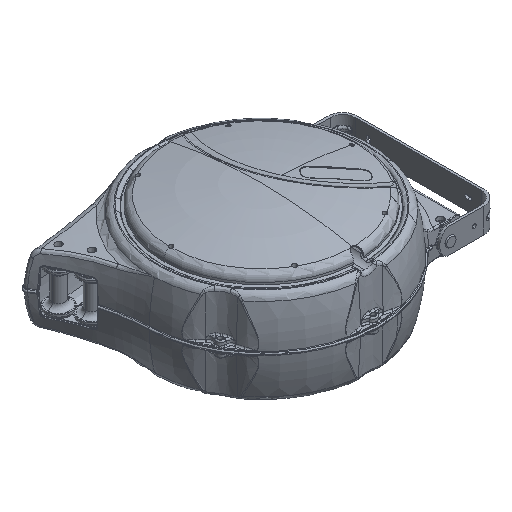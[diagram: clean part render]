
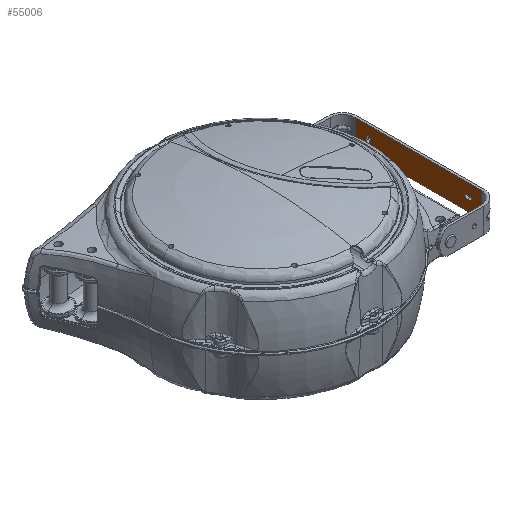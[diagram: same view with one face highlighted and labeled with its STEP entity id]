
A CAD part, isometric view. The second image highlights one B-rep face of the part: STEP entity #55006.
In plain terms, the highlighted planar face has unit normal (1, 0, 0).
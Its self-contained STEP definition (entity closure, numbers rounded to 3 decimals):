
#38 = DIRECTION ( 'NONE',  ( 0., 0., 1. ) ) ;
#1985 = CARTESIAN_POINT ( 'NONE',  ( 246.238, 77.252, 503.276 ) ) ;
#4362 = EDGE_CURVE ( 'NONE', #72459, #18312, #70038, .T. ) ;
#4999 = DIRECTION ( 'NONE',  ( 0., 0., -1. ) ) ;
#5543 = AXIS2_PLACEMENT_3D ( 'NONE', #58985, #20474, #65432 ) ;
#5764 = DIRECTION ( 'NONE',  ( 0., 0., 1. ) ) ;
#7148 = DIRECTION ( 'NONE',  ( 0., 0., -1. ) ) ;
#9619 = VECTOR ( 'NONE', #18778, 1000. ) ;
#9952 = FACE_BOUND ( 'NONE', #32067, .T. ) ;
#10030 = ORIENTED_EDGE ( 'NONE', *, *, #36230, .T. ) ;
#10706 = VERTEX_POINT ( 'NONE', #24342 ) ;
#11835 = CARTESIAN_POINT ( 'NONE',  ( 246.238, 71.052, 498.276 ) ) ;
#12774 = DIRECTION ( 'NONE',  ( 0., 1., 0. ) ) ;
#13536 = VERTEX_POINT ( 'NONE', #55274 ) ;
#14205 = CARTESIAN_POINT ( 'NONE',  ( 246.238, 77.252, 498.276 ) ) ;
#14918 = VECTOR ( 'NONE', #12774, 1000. ) ;
#15099 = CARTESIAN_POINT ( 'NONE',  ( 246.238, 74.152, 506.376 ) ) ;
#15129 = ORIENTED_EDGE ( 'NONE', *, *, #22444, .T. ) ;
#15210 = CARTESIAN_POINT ( 'NONE',  ( 246.238, -83.348, 503.876 ) ) ;
#18312 = VERTEX_POINT ( 'NONE', #14205 ) ;
#18778 = DIRECTION ( 'NONE',  ( 0., 0., 1. ) ) ;
#19207 = CIRCLE ( 'NONE', #23318, 3.1 ) ;
#20115 = VERTEX_POINT ( 'NONE', #15210 ) ;
#20387 = VERTEX_POINT ( 'NONE', #49767 ) ;
#20474 = DIRECTION ( 'NONE',  ( -1., 0., 0. ) ) ;
#20614 = LINE ( 'NONE', #50865, #9619 ) ;
#22053 = DIRECTION ( 'NONE',  ( -1., 0., 0. ) ) ;
#22444 = EDGE_CURVE ( 'NONE', #33396, #66973, #33160, .T. ) ;
#22503 = VECTOR ( 'NONE', #76336, 1000. ) ;
#23318 = AXIS2_PLACEMENT_3D ( 'NONE', #77007, #38533, #38 ) ;
#24054 = ORIENTED_EDGE ( 'NONE', *, *, #42538, .T. ) ;
#24342 = CARTESIAN_POINT ( 'NONE',  ( 246.238, -83.348, 497.676 ) ) ;
#25459 = ORIENTED_EDGE ( 'NONE', *, *, #4362, .T. ) ;
#26781 = VERTEX_POINT ( 'NONE', #77850 ) ;
#27006 = FACE_BOUND ( 'NONE', #63782, .T. ) ;
#27711 = CARTESIAN_POINT ( 'NONE',  ( 246.238, -106.348, 497.676 ) ) ;
#29485 = EDGE_CURVE ( 'NONE', #20115, #10706, #58205, .T. ) ;
#30465 = AXIS2_PLACEMENT_3D ( 'NONE', #60588, #22053, #67023 ) ;
#31183 = ORIENTED_EDGE ( 'NONE', *, *, #77694, .T. ) ;
#31208 = CIRCLE ( 'NONE', #30465, 3.1 ) ;
#31213 = PLANE ( 'NONE',  #75941 ) ;
#31410 = VECTOR ( 'NONE', #75679, 1000. ) ;
#32067 = EDGE_LOOP ( 'NONE', ( #51208, #46924, #24054, #69402 ) ) ;
#32482 = DIRECTION ( 'NONE',  ( -1., 0., 0. ) ) ;
#32749 = CARTESIAN_POINT ( 'NONE',  ( 246.238, 77.252, 520.776 ) ) ;
#33160 = LINE ( 'NONE', #57717, #82392 ) ;
#33396 = VERTEX_POINT ( 'NONE', #50943 ) ;
#33762 = VERTEX_POINT ( 'NONE', #15099 ) ;
#34053 = CIRCLE ( 'NONE', #48557, 3.1 ) ;
#34186 = DIRECTION ( 'NONE',  ( 0., -1., 0. ) ) ;
#36078 = CARTESIAN_POINT ( 'NONE',  ( 246.238, -88.348, 503.876 ) ) ;
#36230 = EDGE_CURVE ( 'NONE', #71054, #13536, #64963, .T. ) ;
#36724 = VERTEX_POINT ( 'NONE', #36078 ) ;
#37661 = DIRECTION ( 'NONE',  ( 0., 0., -1. ) ) ;
#38533 = DIRECTION ( 'NONE',  ( -1., 0., 0. ) ) ;
#38715 = EDGE_CURVE ( 'NONE', #70588, #20387, #20614, .T. ) ;
#39597 = LINE ( 'NONE', #69568, #22503 ) ;
#42071 = CARTESIAN_POINT ( 'NONE',  ( 246.238, 94.652, 520.776 ) ) ;
#42538 = EDGE_CURVE ( 'NONE', #36724, #20115, #39597, .T. ) ;
#42919 = EDGE_CURVE ( 'NONE', #33762, #72459, #50680, .T. ) ;
#44303 = DIRECTION ( 'NONE',  ( -1., 0., 0. ) ) ;
#44854 = CARTESIAN_POINT ( 'NONE',  ( 246.238, -106.348, 480.776 ) ) ;
#46504 = LINE ( 'NONE', #49868, #31410 ) ;
#46924 = ORIENTED_EDGE ( 'NONE', *, *, #55580, .T. ) ;
#47899 = VECTOR ( 'NONE', #34186, 1000. ) ;
#48557 = AXIS2_PLACEMENT_3D ( 'NONE', #82724, #44303, #5764 ) ;
#49056 = ORIENTED_EDGE ( 'NONE', *, *, #38715, .T. ) ;
#49767 = CARTESIAN_POINT ( 'NONE',  ( 246.238, 71.052, 503.276 ) ) ;
#49868 = CARTESIAN_POINT ( 'NONE',  ( 246.238, -106.348, 520.776 ) ) ;
#50680 = CIRCLE ( 'NONE', #80513, 3.1 ) ;
#50865 = CARTESIAN_POINT ( 'NONE',  ( 246.238, 71.052, 520.776 ) ) ;
#50943 = CARTESIAN_POINT ( 'NONE',  ( 246.238, 94.652, 480.776 ) ) ;
#51208 = ORIENTED_EDGE ( 'NONE', *, *, #66022, .T. ) ;
#51282 = DIRECTION ( 'NONE',  ( 0., 0., 1. ) ) ;
#53002 = VECTOR ( 'NONE', #7148, 1000. ) ;
#55006 = ADVANCED_FACE ( 'NONE', ( #27006, #9952, #80320 ), #31213, .T. ) ;
#55274 = CARTESIAN_POINT ( 'NONE',  ( 246.238, -106.348, 480.776 ) ) ;
#55580 = EDGE_CURVE ( 'NONE', #26781, #36724, #34053, .T. ) ;
#55678 = ORIENTED_EDGE ( 'NONE', *, *, #75116, .T. ) ;
#55692 = ORIENTED_EDGE ( 'NONE', *, *, #83334, .T. ) ;
#55700 = EDGE_CURVE ( 'NONE', #13536, #33396, #81267, .T. ) ;
#57717 = CARTESIAN_POINT ( 'NONE',  ( 246.238, 94.652, 520.776 ) ) ;
#58205 = CIRCLE ( 'NONE', #5543, 3.1 ) ;
#58985 = CARTESIAN_POINT ( 'NONE',  ( 246.238, -83.348, 500.776 ) ) ;
#60588 = CARTESIAN_POINT ( 'NONE',  ( 246.238, 74.152, 498.276 ) ) ;
#61669 = EDGE_LOOP ( 'NONE', ( #55678, #10030, #65107, #15129 ) ) ;
#63782 = EDGE_LOOP ( 'NONE', ( #49056, #31183, #69525, #25459, #55692 ) ) ;
#64963 = LINE ( 'NONE', #81962, #82036 ) ;
#65107 = ORIENTED_EDGE ( 'NONE', *, *, #55700, .T. ) ;
#65432 = DIRECTION ( 'NONE',  ( 0., 0., 1. ) ) ;
#66022 = EDGE_CURVE ( 'NONE', #10706, #26781, #80019, .T. ) ;
#66973 = VERTEX_POINT ( 'NONE', #42071 ) ;
#67023 = DIRECTION ( 'NONE',  ( 0., 0., 1. ) ) ;
#69110 = CARTESIAN_POINT ( 'NONE',  ( 246.238, -106.348, 520.776 ) ) ;
#69402 = ORIENTED_EDGE ( 'NONE', *, *, #29485, .T. ) ;
#69525 = ORIENTED_EDGE ( 'NONE', *, *, #42919, .T. ) ;
#69568 = CARTESIAN_POINT ( 'NONE',  ( 246.238, -106.348, 503.876 ) ) ;
#70038 = LINE ( 'NONE', #32749, #53002 ) ;
#70588 = VERTEX_POINT ( 'NONE', #11835 ) ;
#70935 = CARTESIAN_POINT ( 'NONE',  ( 246.238, 74.152, 503.276 ) ) ;
#71054 = VERTEX_POINT ( 'NONE', #72487 ) ;
#72459 = VERTEX_POINT ( 'NONE', #1985 ) ;
#72487 = CARTESIAN_POINT ( 'NONE',  ( 246.238, -106.348, 520.776 ) ) ;
#75116 = EDGE_CURVE ( 'NONE', #66973, #71054, #46504, .T. ) ;
#75679 = DIRECTION ( 'NONE',  ( 0., -1., 0. ) ) ;
#75941 = AXIS2_PLACEMENT_3D ( 'NONE', #69110, #76150, #37661 ) ;
#76150 = DIRECTION ( 'NONE',  ( 1., 0., 0. ) ) ;
#76336 = DIRECTION ( 'NONE',  ( 0., 1., 0. ) ) ;
#77007 = CARTESIAN_POINT ( 'NONE',  ( 246.238, 74.152, 503.276 ) ) ;
#77409 = DIRECTION ( 'NONE',  ( 0., 0., 1. ) ) ;
#77694 = EDGE_CURVE ( 'NONE', #20387, #33762, #19207, .T. ) ;
#77850 = CARTESIAN_POINT ( 'NONE',  ( 246.238, -88.348, 497.676 ) ) ;
#80019 = LINE ( 'NONE', #27711, #47899 ) ;
#80320 = FACE_OUTER_BOUND ( 'NONE', #61669, .T. ) ;
#80513 = AXIS2_PLACEMENT_3D ( 'NONE', #70935, #32482, #77409 ) ;
#81267 = LINE ( 'NONE', #44854, #14918 ) ;
#81962 = CARTESIAN_POINT ( 'NONE',  ( 246.238, -106.348, 520.776 ) ) ;
#82036 = VECTOR ( 'NONE', #4999, 1000. ) ;
#82392 = VECTOR ( 'NONE', #51282, 1000. ) ;
#82724 = CARTESIAN_POINT ( 'NONE',  ( 246.238, -88.348, 500.776 ) ) ;
#83334 = EDGE_CURVE ( 'NONE', #18312, #70588, #31208, .T. ) ;
